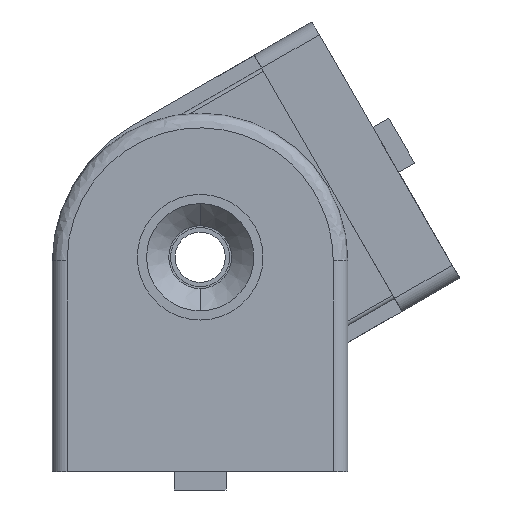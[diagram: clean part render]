
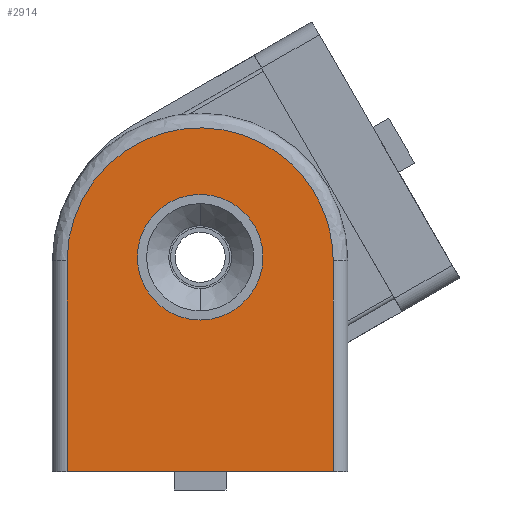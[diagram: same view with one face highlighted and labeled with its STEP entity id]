
A CAD part, left-side view. The second image highlights one B-rep face of the part: STEP entity #2914.
In plain terms, the highlighted planar face has unit normal (-1, 0, 0).
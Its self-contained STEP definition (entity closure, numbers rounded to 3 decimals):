
#18 = FACE_OUTER_BOUND ( 'NONE', #2644, .T. ) ;
#26 = DIRECTION ( 'NONE',  ( 1., 0., 0. ) ) ;
#228 = CARTESIAN_POINT ( 'NONE',  ( -20., 18., 28.5 ) ) ;
#267 = EDGE_CURVE ( 'NONE', #1212, #1176, #1523, .T. ) ;
#361 = DIRECTION ( 'NONE',  ( 0., 0., 1. ) ) ;
#423 = VERTEX_POINT ( 'NONE', #793 ) ;
#469 = ORIENTED_EDGE ( 'NONE', *, *, #1157, .T. ) ;
#576 = CARTESIAN_POINT ( 'NONE',  ( -20., 0., 20.5 ) ) ;
#597 = EDGE_LOOP ( 'NONE', ( #1674, #1515 ) ) ;
#682 = DIRECTION ( 'NONE',  ( 0., 0., -1. ) ) ;
#734 = EDGE_CURVE ( 'NONE', #1156, #2879, #2632, .T. ) ;
#769 = VERTEX_POINT ( 'NONE', #1330 ) ;
#793 = CARTESIAN_POINT ( 'NONE',  ( -20., 18., 0. ) ) ;
#797 = EDGE_CURVE ( 'NONE', #2879, #1156, #1850, .T. ) ;
#898 = CARTESIAN_POINT ( 'NONE',  ( -20., 0., 29. ) ) ;
#913 = DIRECTION ( 'NONE',  ( 0., 0., -1. ) ) ;
#926 = DIRECTION ( 'NONE',  ( 1., 0., 0. ) ) ;
#1104 = DIRECTION ( 'NONE',  ( 0., 0., 1. ) ) ;
#1116 = DIRECTION ( 'NONE',  ( 0., 0., -1. ) ) ;
#1129 = CARTESIAN_POINT ( 'NONE',  ( -20., -18., 64.5 ) ) ;
#1156 = VERTEX_POINT ( 'NONE', #1926 ) ;
#1157 = EDGE_CURVE ( 'NONE', #423, #1176, #2774, .T. ) ;
#1176 = VERTEX_POINT ( 'NONE', #1249 ) ;
#1212 = VERTEX_POINT ( 'NONE', #1507 ) ;
#1220 = FACE_BOUND ( 'NONE', #597, .T. ) ;
#1249 = CARTESIAN_POINT ( 'NONE',  ( -20., -18., 0. ) ) ;
#1252 = AXIS2_PLACEMENT_3D ( 'NONE', #1805, #26, #682 ) ;
#1275 = DIRECTION ( 'NONE',  ( 0., -1., 0. ) ) ;
#1281 = ORIENTED_EDGE ( 'NONE', *, *, #2466, .F. ) ;
#1330 = CARTESIAN_POINT ( 'NONE',  ( -20., 18., 28.5 ) ) ;
#1460 = ORIENTED_EDGE ( 'NONE', *, *, #2570, .F. ) ;
#1481 = PLANE ( 'NONE',  #2234 ) ;
#1507 = CARTESIAN_POINT ( 'NONE',  ( -20., -18., 28.5 ) ) ;
#1515 = ORIENTED_EDGE ( 'NONE', *, *, #734, .T. ) ;
#1523 = LINE ( 'NONE', #2745, #2708 ) ;
#1674 = ORIENTED_EDGE ( 'NONE', *, *, #797, .T. ) ;
#1714 = DIRECTION ( 'NONE',  ( -1., 0., 0. ) ) ;
#1805 = CARTESIAN_POINT ( 'NONE',  ( -20., 0., 29. ) ) ;
#1850 = CIRCLE ( 'NONE', #1252, 8.5 ) ;
#1926 = CARTESIAN_POINT ( 'NONE',  ( -20., 0., 37.5 ) ) ;
#2014 = VECTOR ( 'NONE', #1104, 1000. ) ;
#2101 =( BOUNDED_CURVE ( )  B_SPLINE_CURVE ( 3, ( #228, #2973, #1129, #2762 ),
 .UNSPECIFIED., .F., .T. ) 
 B_SPLINE_CURVE_WITH_KNOTS ( ( 4, 4 ),
 ( 0., 1. ),
 .UNSPECIFIED. ) 
 CURVE ( )  GEOMETRIC_REPRESENTATION_ITEM ( )  RATIONAL_B_SPLINE_CURVE ( ( 1., 0.333, 0.333, 1. ) ) 
 REPRESENTATION_ITEM ( '' )  );
#2128 = VECTOR ( 'NONE', #1275, 1000. ) ;
#2219 = ORIENTED_EDGE ( 'NONE', *, *, #267, .F. ) ;
#2234 = AXIS2_PLACEMENT_3D ( 'NONE', #2414, #1714, #361 ) ;
#2414 = CARTESIAN_POINT ( 'NONE',  ( -20., 18., 0. ) ) ;
#2466 = EDGE_CURVE ( 'NONE', #423, #769, #2577, .T. ) ;
#2497 = CARTESIAN_POINT ( 'NONE',  ( -20., 18., 0. ) ) ;
#2570 = EDGE_CURVE ( 'NONE', #769, #1212, #2101, .T. ) ;
#2577 = LINE ( 'NONE', #2497, #2014 ) ;
#2632 = CIRCLE ( 'NONE', #2866, 8.5 ) ;
#2644 = EDGE_LOOP ( 'NONE', ( #2219, #1460, #1281, #469 ) ) ;
#2708 = VECTOR ( 'NONE', #1116, 1000. ) ;
#2745 = CARTESIAN_POINT ( 'NONE',  ( -20., -18., 0. ) ) ;
#2762 = CARTESIAN_POINT ( 'NONE',  ( -20., -18., 28.5 ) ) ;
#2774 = LINE ( 'NONE', #2832, #2128 ) ;
#2832 = CARTESIAN_POINT ( 'NONE',  ( -20., 0., 0. ) ) ;
#2866 = AXIS2_PLACEMENT_3D ( 'NONE', #898, #926, #913 ) ;
#2879 = VERTEX_POINT ( 'NONE', #576 ) ;
#2914 = ADVANCED_FACE ( 'NONE', ( #1220, #18 ), #1481, .T. ) ;
#2973 = CARTESIAN_POINT ( 'NONE',  ( -20., 18., 64.5 ) ) ;
